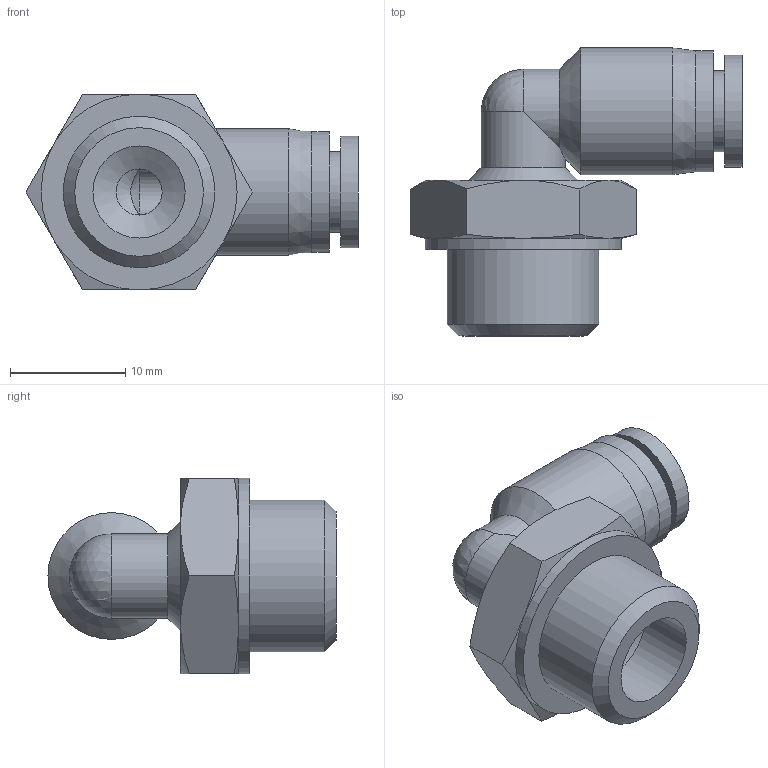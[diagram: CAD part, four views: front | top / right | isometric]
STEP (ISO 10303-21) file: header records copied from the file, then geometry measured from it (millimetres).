
FILE_DESCRIPTION((''),'2;1');
FILE_NAME('S:\UTecnico\ArchivioUT\Speciali Clienti\Speciali KONFIT\DISEGNI 3D\RP\RP 72\RP721404.stp','2013-01-22T09:48:10',('UT5'),(''),'Autodesk Inventor 2013','Autodesk Inventor 2013','');
FILE_SCHEMA(('AUTOMOTIVE_DESIGN { 1 0 10303 214 1 1 1 1 }'));
Length unit declared in the file: millimetre
Products named in the file (1): RP721404
Bounding box: 28.82 x 25 x 17 mm (x, y, z)
Volume: 3515.5 mm3; surface area: 2458 mm2
Topology: 1 solids, 1 shells, 43 faces, 92 edges, 53 vertices
Faces by surface type: cone 19, plane 12, cylinder 11, sphere 1
Full cylindrical faces by diameter (mm): 4 x2, 7 x1, 7.3 x1, 8 x1, 9.7 x1, 10.5 x1, 11 x1, 13.157 x1, 17 x1
Entity records: 1060 total; most frequent: CARTESIAN_POINT 236, DIRECTION 170, ORIENTED_EDGE 140, AXIS2_PLACEMENT_3D 82, EDGE_CURVE 70, EDGE_LOOP 64, VERTEX_POINT 48, FACE_OUTER_BOUND 43
